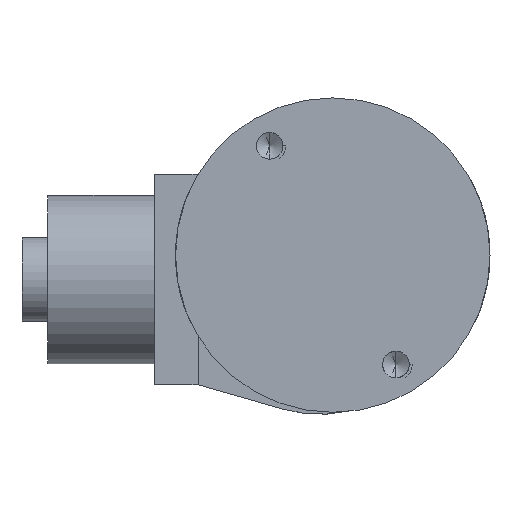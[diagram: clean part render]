
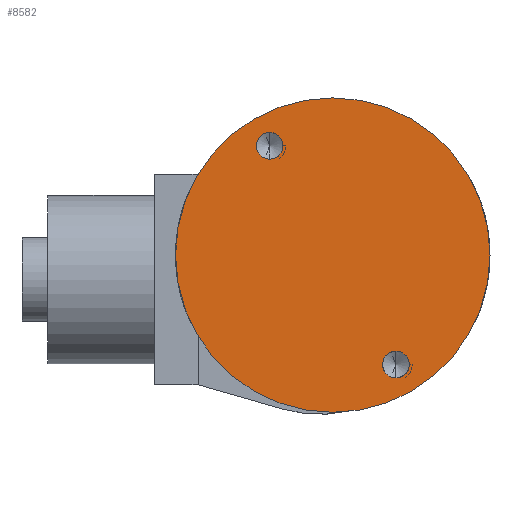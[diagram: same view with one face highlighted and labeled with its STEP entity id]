
A CAD part, front view. The second image highlights one B-rep face of the part: STEP entity #8582.
In plain terms, the highlighted planar face has unit normal (0, -1, 0).
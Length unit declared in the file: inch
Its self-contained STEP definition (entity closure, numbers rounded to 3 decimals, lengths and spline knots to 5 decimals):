
#390 = VERTEX_POINT ( 'NONE', #20409 ) ;
#544 = EDGE_CURVE ( 'Defeatured_0_167+Defeatured_0_29+Defeatured_0_165+Defeatured_0_164', #14417, #6364, #14040, .T. ) ;
#678 = ORIENTED_EDGE ( 'NONE', *, *, #5815, .F. ) ;
#847 = CARTESIAN_POINT ( 'NONE',  ( 0.375, -1.81, -0.72902 ) ) ;
#1057 = CARTESIAN_POINT ( 'NONE',  ( 0., -1.81, 0. ) ) ;
#1086 = AXIS2_PLACEMENT_3D ( 'NONE', #6008, #12495, #18992 ) ;
#1275 = EDGE_CURVE ( 'Defeatured_0_160+Defeatured_0_29+Defeatured_0_158+Defeatured_0_157', #13668, #3996, #14724, .T. ) ;
#1431 = EDGE_CURVE ( 'Defeatured_0_160+Defeatured_0_29+Defeatured_0_158+Defeatured_0_157', #11210, #13668, #7203, .T. ) ;
#1709 = VERTEX_POINT ( 'NONE', #11314 ) ;
#1713 = CARTESIAN_POINT ( 'NONE',  ( 0.375, -1.81, -0.57002 ) ) ;
#2128 = CIRCLE ( 'NONE', #11289, 0.0795 ) ;
#2490 = EDGE_CURVE ( 'Defeatured_0_160+Defeatured_0_29+Defeatured_0_158+Defeatured_0_157', #3996, #11210, #14008, .T. ) ;
#2569 = ORIENTED_EDGE ( 'NONE', *, *, #7256, .F. ) ;
#2648 = FACE_BOUND ( 'NONE', #5896, .T. ) ;
#2865 = DIRECTION ( 'NONE',  ( 0., -1., 0. ) ) ;
#3144 = AXIS2_PLACEMENT_3D ( 'NONE', #19109, #4527, #11021 ) ;
#3861 = CARTESIAN_POINT ( 'NONE',  ( -0.375, -1.81, 0.64952 ) ) ;
#3996 = VERTEX_POINT ( 'NONE', #1713 ) ;
#4419 = DIRECTION ( 'NONE',  ( 0., -1., 0. ) ) ;
#4527 = DIRECTION ( 'NONE',  ( 0., 1., 0. ) ) ;
#4581 = EDGE_LOOP ( 'NONE', ( #17359, #15466, #9092 ) ) ;
#4735 = DIRECTION ( 'NONE',  ( 0., 0., -1. ) ) ;
#5630 = EDGE_CURVE ( 'Defeatured_0_167+Defeatured_0_29+Defeatured_0_165+Defeatured_0_164', #6364, #19655, #18740, .T. ) ;
#5815 = EDGE_CURVE ( 'Defeatured_0_35+Defeatured_0_29+Defeatured_0_29+Defeatured_0_29', #390, #1709, #10580, .T. ) ;
#5896 = EDGE_LOOP ( 'NONE', ( #14127, #20839, #20980 ) ) ;
#5977 = DIRECTION ( 'NONE',  ( 0., 1., 0. ) ) ;
#6008 = CARTESIAN_POINT ( 'NONE',  ( 0.375, -1.81, -0.64952 ) ) ;
#6364 = VERTEX_POINT ( 'NONE', #20797 ) ;
#7176 = EDGE_CURVE ( 'Defeatured_0_167+Defeatured_0_29+Defeatured_0_165+Defeatured_0_164', #19655, #14417, #2128, .T. ) ;
#7203 = CIRCLE ( 'NONE', #16386, 0.0795 ) ;
#7244 = EDGE_LOOP ( 'NONE', ( #2569, #678 ) ) ;
#7256 = EDGE_CURVE ( 'Defeatured_0_35+Defeatured_0_29+Defeatured_0_29+Defeatured_0_29', #1709, #390, #15047, .T. ) ;
#7532 = DIRECTION ( 'NONE',  ( 0., 1., 0. ) ) ;
#7860 = AXIS2_PLACEMENT_3D ( 'NONE', #1057, #7532, #14035 ) ;
#8582 = ADVANCED_FACE ( 'Defeatured_0_29', ( #17222, #2648, #9130 ), #15633, .F. ) ;
#9092 = ORIENTED_EDGE ( 'NONE', *, *, #7176, .F. ) ;
#9130 = FACE_OUTER_BOUND ( 'NONE', #7244, .T. ) ;
#9278 = AXIS2_PLACEMENT_3D ( 'NONE', #12821, #19319, #4735 ) ;
#9349 = DIRECTION ( 'NONE',  ( 0., 0., -1. ) ) ;
#9946 = DIRECTION ( 'NONE',  ( 0., -1., 0. ) ) ;
#10350 = DIRECTION ( 'NONE',  ( 0., -1., 0. ) ) ;
#10580 = CIRCLE ( 'NONE', #19754, 0.934 ) ;
#10913 = DIRECTION ( 'NONE',  ( 0., 0., -1. ) ) ;
#11021 = DIRECTION ( 'NONE',  ( 0., 0., 1. ) ) ;
#11210 = VERTEX_POINT ( 'NONE', #847 ) ;
#11289 = AXIS2_PLACEMENT_3D ( 'NONE', #19002, #4419, #10913 ) ;
#11314 = CARTESIAN_POINT ( 'NONE',  ( 0., -1.81, 0.934 ) ) ;
#11769 = CARTESIAN_POINT ( 'NONE',  ( 0.4545, -1.81, -0.64952 ) ) ;
#11929 = CARTESIAN_POINT ( 'NONE',  ( -0.375, -1.81, 0.57002 ) ) ;
#12469 = DIRECTION ( 'NONE',  ( 0., 0., 1. ) ) ;
#12495 = DIRECTION ( 'NONE',  ( 0., -1., 0. ) ) ;
#12533 = CARTESIAN_POINT ( 'NONE',  ( -0.375, -1.81, 0.64952 ) ) ;
#12821 = CARTESIAN_POINT ( 'NONE',  ( 0.375, -1.81, -0.64952 ) ) ;
#13668 = VERTEX_POINT ( 'NONE', #11769 ) ;
#14008 = CIRCLE ( 'NONE', #1086, 0.0795 ) ;
#14035 = DIRECTION ( 'NONE',  ( 0., 0., 1. ) ) ;
#14040 = CIRCLE ( 'NONE', #19815, 0.0795 ) ;
#14127 = ORIENTED_EDGE ( 'NONE', *, *, #1275, .F. ) ;
#14417 = VERTEX_POINT ( 'NONE', #11929 ) ;
#14724 = CIRCLE ( 'NONE', #9278, 0.0795 ) ;
#14753 = CARTESIAN_POINT ( 'NONE',  ( 0.375, -1.81, -0.64952 ) ) ;
#15047 = CIRCLE ( 'NONE', #3144, 0.934 ) ;
#15466 = ORIENTED_EDGE ( 'NONE', *, *, #544, .F. ) ;
#15633 = PLANE ( 'NONE',  #7860 ) ;
#16034 = AXIS2_PLACEMENT_3D ( 'NONE', #3861, #10350, #16844 ) ;
#16386 = AXIS2_PLACEMENT_3D ( 'NONE', #14753, #9946, #16448 ) ;
#16448 = DIRECTION ( 'NONE',  ( 0., 0., -1. ) ) ;
#16844 = DIRECTION ( 'NONE',  ( 0., 0., -1. ) ) ;
#16896 = CARTESIAN_POINT ( 'NONE',  ( -0.375, -1.81, 0.72902 ) ) ;
#17222 = FACE_BOUND ( 'NONE', #4581, .T. ) ;
#17359 = ORIENTED_EDGE ( 'NONE', *, *, #5630, .F. ) ;
#18740 = CIRCLE ( 'NONE', #16034, 0.0795 ) ;
#18992 = DIRECTION ( 'NONE',  ( 0., 0., -1. ) ) ;
#19002 = CARTESIAN_POINT ( 'NONE',  ( -0.375, -1.81, 0.64952 ) ) ;
#19109 = CARTESIAN_POINT ( 'NONE',  ( 0., -1.81, 0. ) ) ;
#19319 = DIRECTION ( 'NONE',  ( 0., -1., 0. ) ) ;
#19655 = VERTEX_POINT ( 'NONE', #16896 ) ;
#19754 = AXIS2_PLACEMENT_3D ( 'NONE', #20554, #5977, #12469 ) ;
#19815 = AXIS2_PLACEMENT_3D ( 'NONE', #12533, #2865, #9349 ) ;
#20409 = CARTESIAN_POINT ( 'NONE',  ( 0., -1.81, -0.934 ) ) ;
#20554 = CARTESIAN_POINT ( 'NONE',  ( 0., -1.81, 0. ) ) ;
#20797 = CARTESIAN_POINT ( 'NONE',  ( -0.2955, -1.81, 0.64952 ) ) ;
#20839 = ORIENTED_EDGE ( 'NONE', *, *, #1431, .F. ) ;
#20980 = ORIENTED_EDGE ( 'NONE', *, *, #2490, .F. ) ;
